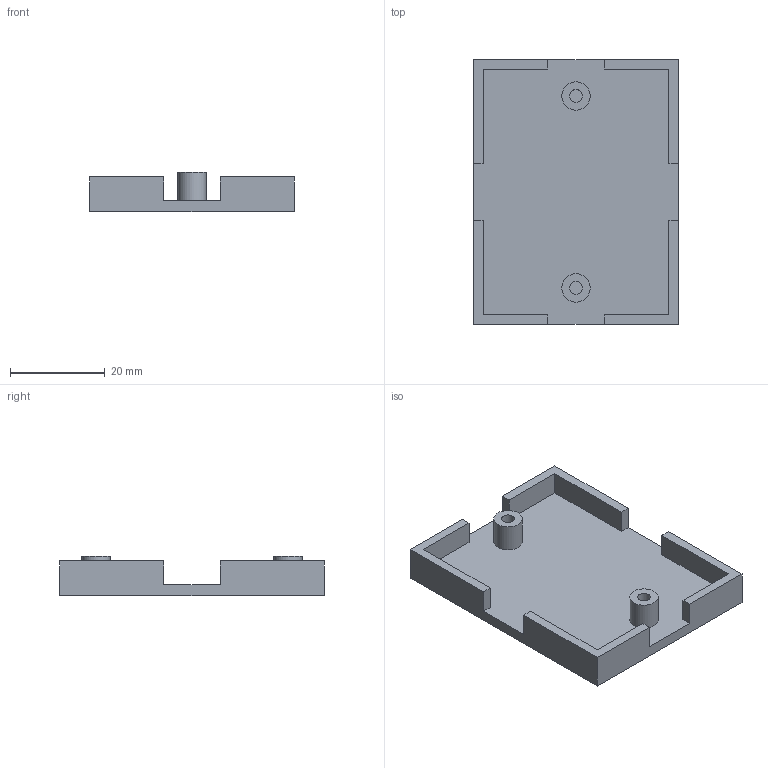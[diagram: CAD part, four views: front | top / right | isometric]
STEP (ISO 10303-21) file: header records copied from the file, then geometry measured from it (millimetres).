
FILE_DESCRIPTION(('Open CASCADE Model'),'2;1');
FILE_NAME('Open CASCADE Shape Model','2026-10-06T09:51:01',('Author'),( 'Open CASCADE'),'Open CASCADE STEP processor 7.9','Open CASCADE 7.9' ,'Unknown');
FILE_SCHEMA(('AUTOMOTIVE_DESIGN { 1 0 10303 214 1 1 1 1 }'));
Length unit declared in the file: millimetre
Products named in the file (1): Open CASCADE STEP translator 7.9 1
Bounding box: 43.3 x 56 x 8.4 mm (x, y, z)
Volume: 7525.3 mm3; surface area: 7146.7 mm2
Topology: 1 solids, 1 shells, 34 faces, 84 edges, 56 vertices
Faces by surface type: plane 30, cylinder 4
Full cylindrical faces by diameter (mm): 2.7 x2, 6 x2
Entity records: 2034 total; most frequent: CARTESIAN_POINT 407, DIRECTION 266, LINE 172, VECTOR 172, ORIENTED_EDGE 168, PCURVE 168, DEFINITIONAL_REPRESENTATION 168, EDGE_CURVE 84
